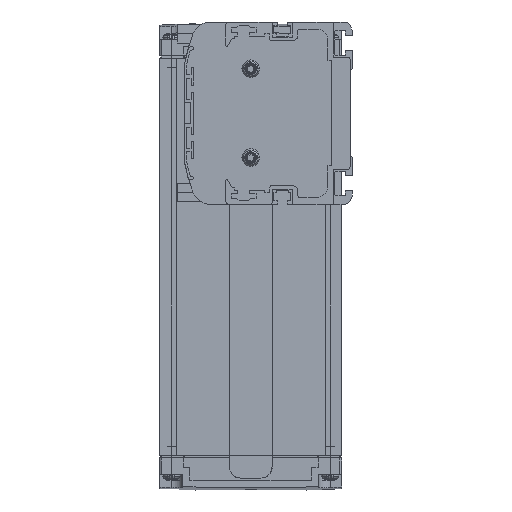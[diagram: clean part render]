
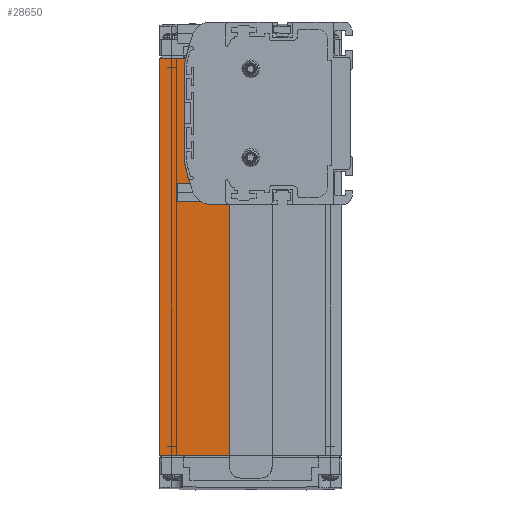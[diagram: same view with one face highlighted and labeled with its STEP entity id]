
A CAD part, left-side view. The second image highlights one B-rep face of the part: STEP entity #28650.
In plain terms, the highlighted planar face has unit normal (-1, 0, 0).
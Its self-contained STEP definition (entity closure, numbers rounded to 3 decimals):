
#4590=DIRECTION('',(0.,-1.,0.));
#4591=VECTOR('',#4590,8.155);
#4592=CARTESIAN_POINT('',(3.,60.755,-39.));
#4593=LINE('',#4592,#4591);
#4628=DIRECTION('',(0.,-1.,0.));
#4629=VECTOR('',#4628,29.9);
#4630=CARTESIAN_POINT('',(3.,82.5,-146.5));
#4631=LINE('',#4630,#4629);
#4632=DIRECTION('',(0.,1.,0.));
#4633=VECTOR('',#4632,11.203);
#4634=CARTESIAN_POINT('',(3.,71.297,23.5));
#4635=LINE('',#4634,#4633);
#4652=DIRECTION('',(0.,0.,1.));
#4653=VECTOR('',#4652,107.5);
#4654=CARTESIAN_POINT('',(3.,52.6,-146.5));
#4655=LINE('',#4654,#4653);
#4656=DIRECTION('',(0.,1.,0.));
#4657=VECTOR('',#4656,0.209);
#4658=CARTESIAN_POINT('',(3.,70.291,-27.5));
#4659=LINE('',#4658,#4657);
#4680=DIRECTION('',(0.,0.,1.));
#4681=VECTOR('',#4680,0.762);
#4682=CARTESIAN_POINT('',(3.,70.5,-27.5));
#4683=LINE('',#4682,#4681);
#10690=CARTESIAN_POINT('',(3.,-6.765,6.));
#10691=DIRECTION('',(1.,0.,0.));
#10692=DIRECTION('',(0.,0.984,0.177));
#10693=AXIS2_PLACEMENT_3D('',#10690,#10691,#10692);
#10695=CARTESIAN_POINT('',(3.,70.,19.823));
#10696=DIRECTION('',(1.,0.,0.));
#10697=DIRECTION('',(0.,1.,0.));
#10698=AXIS2_PLACEMENT_3D('',#10695,#10696,#10697);
#10704=DIRECTION('',(0.,0.,1.));
#10705=VECTOR('',#10704,39.645);
#10706=CARTESIAN_POINT('',(3.,72.,-19.823));
#10707=LINE('',#10706,#10705);
#10712=CARTESIAN_POINT('',(3.,70.,-19.823));
#10713=DIRECTION('',(-1.,0.,0.));
#10714=DIRECTION('',(0.,1.,0.));
#10715=AXIS2_PLACEMENT_3D('',#10712,#10713,#10714);
#10725=CARTESIAN_POINT('',(3.,-6.765,-6.));
#10726=DIRECTION('',(1.,0.,0.));
#10727=DIRECTION('',(0.,0.938,-0.347));
#10728=AXIS2_PLACEMENT_3D('',#10725,#10726,#10727);
#10730=CARTESIAN_POINT('',(3.,-6.765,-6.));
#10731=DIRECTION('',(1.,0.,0.));
#10732=DIRECTION('',(0.,0.966,-0.259));
#10733=AXIS2_PLACEMENT_3D('',#10730,#10731,#10732);
#10739=CARTESIAN_POINT('',(3.,60.755,-31.));
#10740=DIRECTION('',(1.,0.,0.));
#10741=DIRECTION('',(0.,0.,-1.));
#10742=AXIS2_PLACEMENT_3D('',#10739,#10740,#10741);
#14148=DIRECTION('',(0.,0.,1.));
#14149=VECTOR('',#14148,170.);
#14150=CARTESIAN_POINT('',(3.,82.5,-146.5));
#14151=LINE('',#14150,#14149);
#18037=CARTESIAN_POINT('',(3.,82.5,23.5));
#18038=VERTEX_POINT('',#18037);
#18083=CARTESIAN_POINT('',(3.,82.5,-146.5));
#18084=VERTEX_POINT('',#18083);
#18085=CARTESIAN_POINT('',(3.,52.6,-146.5));
#18086=VERTEX_POINT('',#18085);
#18115=CARTESIAN_POINT('',(3.,70.5,-27.5));
#18117=VERTEX_POINT('',#18115);
#22238=CARTESIAN_POINT('',(3.,60.755,-39.));
#22239=CARTESIAN_POINT('',(3.,52.6,-39.));
#22240=VERTEX_POINT('',#22238);
#22241=VERTEX_POINT('',#22239);
#22242=CARTESIAN_POINT('',(3.,71.297,23.5));
#22244=VERTEX_POINT('',#22242);
#22252=CARTESIAN_POINT('',(3.,70.5,-26.738));
#22253=VERTEX_POINT('',#22252);
#22256=CARTESIAN_POINT('',(3.,70.291,-27.5));
#22258=VERTEX_POINT('',#22256);
#22268=CARTESIAN_POINT('',(3.,72.,19.823));
#22269=CARTESIAN_POINT('',(3.,71.968,20.177));
#22270=VERTEX_POINT('',#22268);
#22271=VERTEX_POINT('',#22269);
#22284=CARTESIAN_POINT('',(3.,68.257,-33.778));
#22285=VERTEX_POINT('',#22284);
#22286=CARTESIAN_POINT('',(3.,71.968,-20.177));
#22287=VERTEX_POINT('',#22286);
#22288=CARTESIAN_POINT('',(3.,72.,-19.823));
#22289=VERTEX_POINT('',#22288);
#28617=CARTESIAN_POINT('',(3.,67.55,-61.5));
#28618=DIRECTION('',(1.,0.,0.));
#28619=DIRECTION('',(0.,1.,0.));
#28620=AXIS2_PLACEMENT_3D('',#28617,#28618,#28619);
#28621=PLANE('',#28620);
#28622=ORIENTED_EDGE('',*,*,#28585,.T.);
#28624=ORIENTED_EDGE('',*,*,#28623,.F.);
#28625=ORIENTED_EDGE('',*,*,#22716,.F.);
#28627=ORIENTED_EDGE('',*,*,#28626,.T.);
#28629=ORIENTED_EDGE('',*,*,#28628,.F.);
#28631=ORIENTED_EDGE('',*,*,#28630,.F.);
#28633=ORIENTED_EDGE('',*,*,#28632,.F.);
#28635=ORIENTED_EDGE('',*,*,#28634,.F.);
#28637=ORIENTED_EDGE('',*,*,#28636,.T.);
#28639=ORIENTED_EDGE('',*,*,#28638,.F.);
#28641=ORIENTED_EDGE('',*,*,#28640,.F.);
#28643=ORIENTED_EDGE('',*,*,#28642,.F.);
#28645=ORIENTED_EDGE('',*,*,#28644,.F.);
#28647=ORIENTED_EDGE('',*,*,#28646,.F.);
#28648=EDGE_LOOP('',(#28622,#28624,#28625,#28627,#28629,#28631,#28633,#28635,
#28637,#28639,#28641,#28643,#28645,#28647));
#28649=FACE_OUTER_BOUND('',#28648,.F.);
#28650=ADVANCED_FACE('',(#28649),#28621,.F.);
#10694=CIRCLE('',#10693,80.);
#10699=CIRCLE('',#10698,2.);
#10716=CIRCLE('',#10715,2.);
#10729=CIRCLE('',#10728,80.);
#10734=CIRCLE('',#10733,80.);
#10743=CIRCLE('',#10742,8.);
#22716=EDGE_CURVE('',#18084,#18086,#4631,.T.);
#28585=EDGE_CURVE('',#22240,#22241,#4593,.T.);
#28623=EDGE_CURVE('',#18086,#22241,#4655,.T.);
#28626=EDGE_CURVE('',#18084,#18038,#14151,.T.);
#28628=EDGE_CURVE('',#22244,#18038,#4635,.T.);
#28630=EDGE_CURVE('',#22271,#22244,#10694,.T.);
#28632=EDGE_CURVE('',#22270,#22271,#10699,.T.);
#28634=EDGE_CURVE('',#22289,#22270,#10707,.T.);
#28636=EDGE_CURVE('',#22289,#22287,#10716,.T.);
#28638=EDGE_CURVE('',#22253,#22287,#10734,.T.);
#28640=EDGE_CURVE('',#18117,#22253,#4683,.T.);
#28642=EDGE_CURVE('',#22258,#18117,#4659,.T.);
#28644=EDGE_CURVE('',#22285,#22258,#10729,.T.);
#28646=EDGE_CURVE('',#22240,#22285,#10743,.T.);
